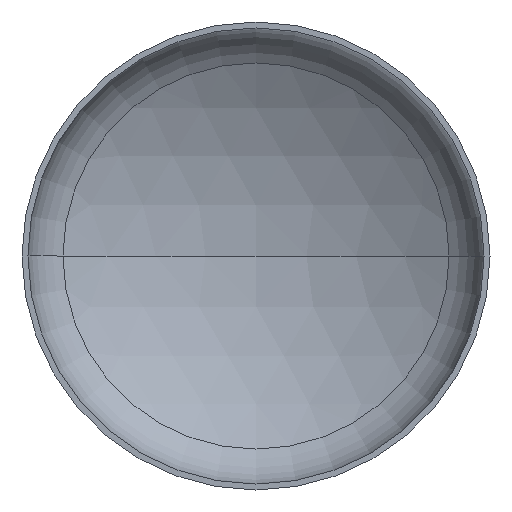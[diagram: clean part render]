
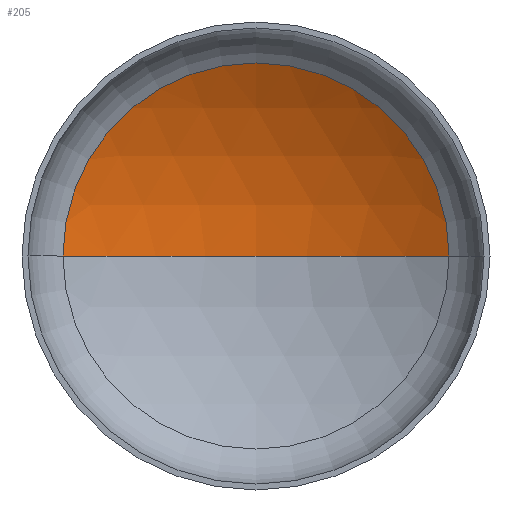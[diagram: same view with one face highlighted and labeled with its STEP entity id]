
A CAD part, front view. The second image highlights one B-rep face of the part: STEP entity #205.
In plain terms, the highlighted spherical face has radius 2720 mm.
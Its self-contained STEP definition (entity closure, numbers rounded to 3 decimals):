
#3 = AXIS2_PLACEMENT_3D ( 'NONE', #329, #96, #124 ) ;
#7 = AXIS2_PLACEMENT_3D ( 'NONE', #90, #170, #174 ) ;
#19 = ORIENTED_EDGE ( 'NONE', *, *, #346, .T. ) ;
#20 = AXIS2_PLACEMENT_3D ( 'NONE', #276, #257, #267 ) ;
#26 = CIRCLE ( 'NONE', #3, 2720. ) ;
#33 = EDGE_LOOP ( 'NONE', ( #89, #19, #49 ) ) ;
#35 = AXIS2_PLACEMENT_3D ( 'NONE', #209, #210, #197 ) ;
#49 = ORIENTED_EDGE ( 'NONE', *, *, #74, .T. ) ;
#74 = EDGE_CURVE ( 'NONE', #94, #144, #404, .T. ) ;
#89 = ORIENTED_EDGE ( 'NONE', *, *, #351, .F. ) ;
#90 = CARTESIAN_POINT ( 'NONE',  ( 0., -1750.585, 0. ) ) ;
#94 = VERTEX_POINT ( 'NONE', #263 ) ;
#96 = DIRECTION ( 'NONE',  ( 0., 0., 1. ) ) ;
#124 = DIRECTION ( 'NONE',  ( 1., 0., 0. ) ) ;
#133 = SPHERICAL_SURFACE ( 'NONE', #20, 2720. ) ;
#144 = VERTEX_POINT ( 'NONE', #353 ) ;
#147 = VERTEX_POINT ( 'NONE', #204 ) ;
#170 = DIRECTION ( 'NONE',  ( 0., 0., -1. ) ) ;
#174 = DIRECTION ( 'NONE',  ( -1., 0., 0. ) ) ;
#191 = CIRCLE ( 'NONE', #7, 2720. ) ;
#197 = DIRECTION ( 'NONE',  ( 1., 0., 0. ) ) ;
#204 = CARTESIAN_POINT ( 'NONE',  ( 0., 969.415, 0. ) ) ;
#205 = ADVANCED_FACE ( 'NONE', ( #216 ), #133, .F. ) ;
#209 = CARTESIAN_POINT ( 'NONE',  ( 0., 579.798, 0. ) ) ;
#210 = DIRECTION ( 'NONE',  ( 0., -1., 0. ) ) ;
#216 = FACE_OUTER_BOUND ( 'NONE', #33, .T. ) ;
#257 = DIRECTION ( 'NONE',  ( 0., 0., -1. ) ) ;
#263 = CARTESIAN_POINT ( 'NONE',  ( 1402.752, 579.798, 0. ) ) ;
#267 = DIRECTION ( 'NONE',  ( -1., 0., 0. ) ) ;
#276 = CARTESIAN_POINT ( 'NONE',  ( 0., -1750.585, 0. ) ) ;
#329 = CARTESIAN_POINT ( 'NONE',  ( 0., -1750.585, 0. ) ) ;
#346 = EDGE_CURVE ( 'NONE', #147, #94, #191, .T. ) ;
#351 = EDGE_CURVE ( 'NONE', #147, #144, #26, .T. ) ;
#353 = CARTESIAN_POINT ( 'NONE',  ( -1402.752, 579.798, 0. ) ) ;
#404 = CIRCLE ( 'NONE', #35, 1402.752 ) ;
